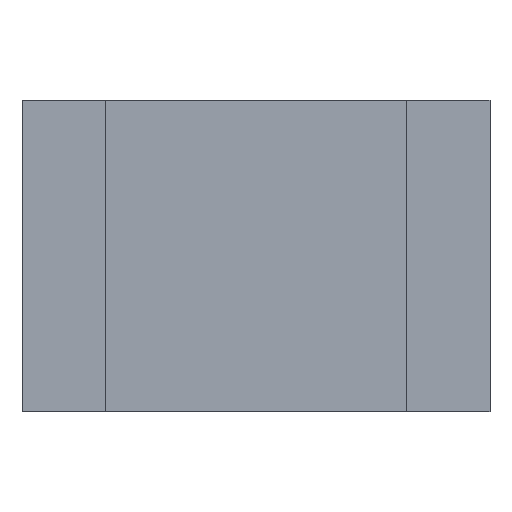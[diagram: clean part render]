
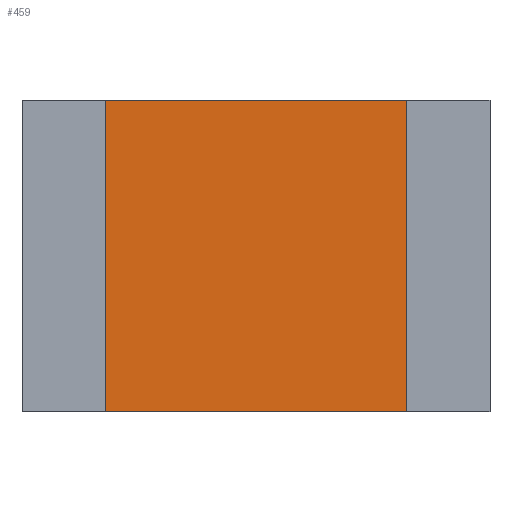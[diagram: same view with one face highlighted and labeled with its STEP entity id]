
A CAD part, top view. The second image highlights one B-rep face of the part: STEP entity #459.
In plain terms, the highlighted planar face has unit normal (0, 0, 1).
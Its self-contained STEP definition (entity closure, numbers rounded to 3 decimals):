
#41=FACE_OUTER_BOUND('',#67,.T.);
#67=EDGE_LOOP('',(#395,#396,#397,#398));
#119=LINE('',#729,#179);
#123=LINE('',#737,#183);
#126=LINE('',#743,#186);
#127=LINE('',#744,#187);
#179=VECTOR('',#603,10.);
#183=VECTOR('',#609,10.);
#186=VECTOR('',#614,10.);
#187=VECTOR('',#615,10.);
#223=VERTEX_POINT('',#727);
#224=VERTEX_POINT('',#728);
#227=VERTEX_POINT('',#736);
#229=VERTEX_POINT('',#742);
#279=EDGE_CURVE('',#223,#224,#119,.T.);
#283=EDGE_CURVE('',#227,#223,#123,.T.);
#286=EDGE_CURVE('',#227,#229,#126,.T.);
#287=EDGE_CURVE('',#229,#224,#127,.T.);
#395=ORIENTED_EDGE('',*,*,#283,.F.);
#396=ORIENTED_EDGE('',*,*,#286,.T.);
#397=ORIENTED_EDGE('',*,*,#287,.T.);
#398=ORIENTED_EDGE('',*,*,#279,.F.);
#433=PLANE('',#507);
#459=ADVANCED_FACE('',(#41),#433,.T.);
#507=AXIS2_PLACEMENT_3D('',#741,#612,#613);
#603=DIRECTION('',(0.,-1.,0.));
#609=DIRECTION('',(1.,0.,0.));
#612=DIRECTION('center_axis',(0.,0.,1.));
#613=DIRECTION('ref_axis',(1.,0.,0.));
#614=DIRECTION('',(0.,-1.,0.));
#615=DIRECTION('',(1.,0.,0.));
#727=CARTESIAN_POINT('',(1.9,1.27,0.445));
#728=CARTESIAN_POINT('',(1.9,0.,0.445));
#729=CARTESIAN_POINT('',(1.9,1.27,0.445));
#736=CARTESIAN_POINT('',(0.,1.27,0.445));
#737=CARTESIAN_POINT('',(0.,1.27,0.445));
#741=CARTESIAN_POINT('Origin',(0.95,-0.001,0.445));
#742=CARTESIAN_POINT('',(0.,0.,0.445));
#743=CARTESIAN_POINT('',(0.,1.27,0.445));
#744=CARTESIAN_POINT('',(0.,0.,0.445));
